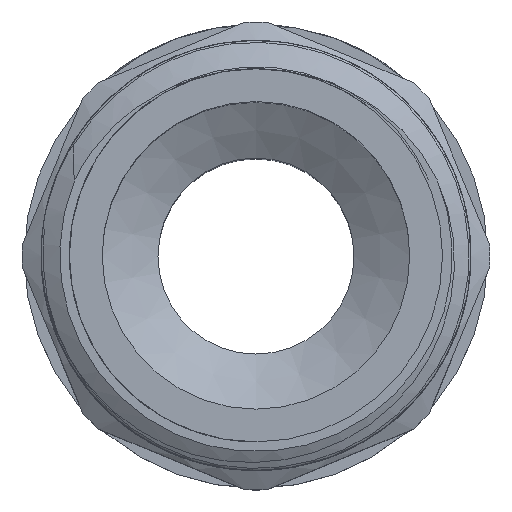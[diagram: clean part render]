
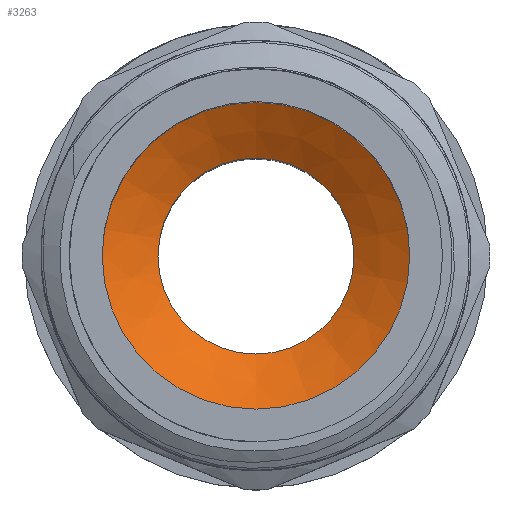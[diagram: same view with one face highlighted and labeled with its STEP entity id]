
A CAD part, top view. The second image highlights one B-rep face of the part: STEP entity #3263.
In plain terms, the highlighted conical face has half-angle 60 degrees and reference radius 5.974 mm.
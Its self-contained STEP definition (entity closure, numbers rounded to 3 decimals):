
#507=FACE_OUTER_BOUND('',#703,.T.);
#703=EDGE_LOOP('',(#2891,#2892,#2893,#2894,#2895,#2896));
#932=LINE('',#6696,#1116);
#1116=VECTOR('',#4137,5.974);
#1239=CIRCLE('',#3512,4.65);
#1240=CIRCLE('',#3513,7.299);
#1241=CIRCLE('',#3514,7.299);
#1242=CIRCLE('',#3515,4.65);
#1553=VERTEX_POINT('',#6692);
#1554=VERTEX_POINT('',#6693);
#1555=VERTEX_POINT('',#6695);
#1556=VERTEX_POINT('',#6697);
#2018=EDGE_CURVE('',#1553,#1554,#1239,.T.);
#2019=EDGE_CURVE('',#1554,#1555,#932,.T.);
#2020=EDGE_CURVE('',#1556,#1555,#1240,.T.);
#2021=EDGE_CURVE('',#1555,#1556,#1241,.T.);
#2022=EDGE_CURVE('',#1554,#1553,#1242,.T.);
#2891=ORIENTED_EDGE('',*,*,#2018,.T.);
#2892=ORIENTED_EDGE('',*,*,#2019,.T.);
#2893=ORIENTED_EDGE('',*,*,#2020,.F.);
#2894=ORIENTED_EDGE('',*,*,#2021,.F.);
#2895=ORIENTED_EDGE('',*,*,#2019,.F.);
#2896=ORIENTED_EDGE('',*,*,#2022,.T.);
#3116=CONICAL_SURFACE('',#3511,5.974,1.047);
#3263=ADVANCED_FACE('',(#507),#3116,.F.);
#3511=AXIS2_PLACEMENT_3D('',#6691,#4133,#4134);
#3512=AXIS2_PLACEMENT_3D('',#6694,#4135,#4136);
#3513=AXIS2_PLACEMENT_3D('',#6698,#4138,#4139);
#3514=AXIS2_PLACEMENT_3D('',#6699,#4140,#4141);
#3515=AXIS2_PLACEMENT_3D('',#6700,#4142,#4143);
#4133=DIRECTION('center_axis',(0.,0.,1.));
#4134=DIRECTION('ref_axis',(0.,-1.,0.));
#4135=DIRECTION('center_axis',(0.,0.,-1.));
#4136=DIRECTION('ref_axis',(1.,0.,0.));
#4137=DIRECTION('',(0.,0.866,0.5));
#4138=DIRECTION('center_axis',(0.,0.,-1.));
#4139=DIRECTION('ref_axis',(1.,0.,0.));
#4140=DIRECTION('center_axis',(0.,0.,-1.));
#4141=DIRECTION('ref_axis',(1.,0.,0.));
#4142=DIRECTION('center_axis',(0.,0.,-1.));
#4143=DIRECTION('ref_axis',(1.,0.,0.));
#6691=CARTESIAN_POINT('Origin',(0.,0.,27.257));
#6692=CARTESIAN_POINT('',(0.,-4.65,26.492));
#6693=CARTESIAN_POINT('',(0.,4.65,26.492));
#6694=CARTESIAN_POINT('Origin',(0.,0.,26.492));
#6695=CARTESIAN_POINT('',(0.,7.299,28.021));
#6696=CARTESIAN_POINT('',(0.,5.974,27.257));
#6697=CARTESIAN_POINT('',(0.,-7.299,28.021));
#6698=CARTESIAN_POINT('Origin',(0.,0.,28.021));
#6699=CARTESIAN_POINT('Origin',(0.,0.,28.021));
#6700=CARTESIAN_POINT('Origin',(0.,0.,26.492));
